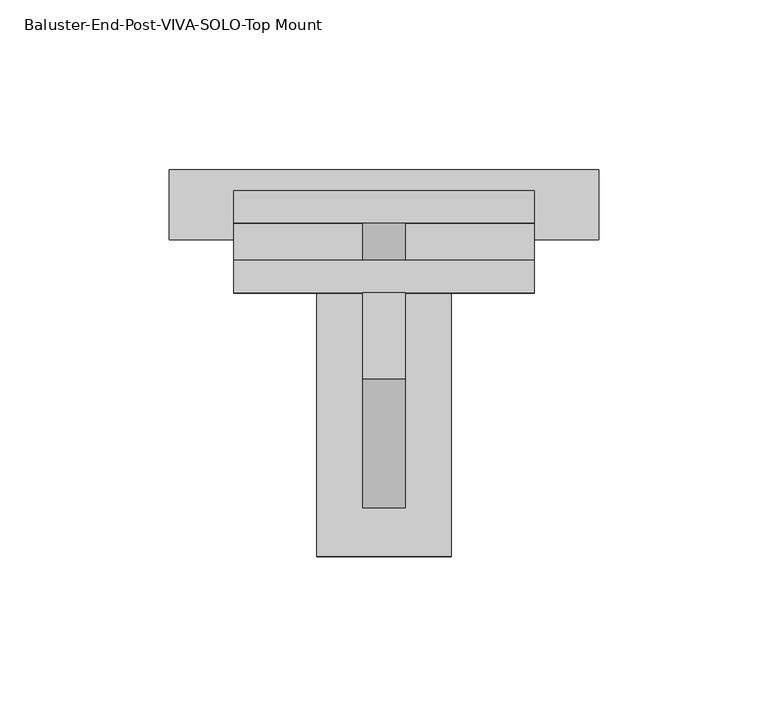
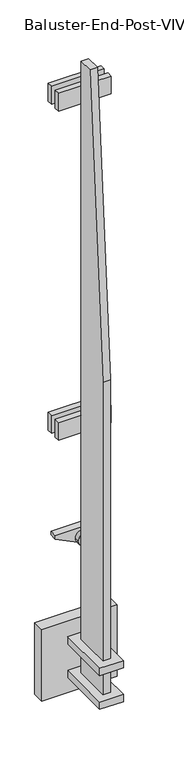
"""IFC4 building model written with IfcOpenShell, lengths in millimetres: proxy geometry, Baluster-End-Post-VIVA-SOLO-Top Mount : ANCHORED TO CONCRETE_FASCIA B1 MOUNT FOLD_STRAIGHT."""

from ifc_helpers import new_model, si_unit, point, frame, frame_2d, origin, place, context, project, spatial, polyline, circle_curve, trimmed, segment, composite_curve, outline, extrude, source, transform, mapped, element, save


def baluster_end_post_viva_solo_top_mount_2ca36c6b(model_context):
    return source(origin(), model_context, "Body", "SweptSolid", [
        extrude(outline(composite_curve([segment(trimmed(circle_curve(frame_2d((268.5208758, 0.0)), 6.35), [point((268.5208758, -6.35))], [point((268.5208758, 6.35))], False, "CARTESIAN"), True, "CONTINUOUS"), segment(trimmed(circle_curve(frame_2d((268.5208758, 0.0)), 6.35), [point((268.5208758, 6.35))], [point((268.5208758, -6.35))], False, "CARTESIAN"), True, "CONTINUOUS")], self_intersect=False)), frame((0.0, -63.209781, 0.0), z_axis=(0.0, 1.0, 0.0), x_axis=(0.0, 0.0, 1.0)), (0.0, 0.0, 1.0), 12.7),
        extrude(outline(composite_curve([segment(trimmed(circle_curve(frame_2d((854.7429765, 0.0)), 6.35), [point((854.7429765, -6.35))], [point((854.7429765, 6.35))], False, "CARTESIAN"), True, "CONTINUOUS"), segment(trimmed(circle_curve(frame_2d((854.7429765, 0.0)), 6.35), [point((854.7429765, 6.35))], [point((854.7429765, -6.35))], False, "CARTESIAN"), True, "CONTINUOUS")], self_intersect=False)), frame((0.0, -63.209781, 0.0), z_axis=(0.0, 1.0, 0.0), x_axis=(0.0, 0.0, 1.0)), (0.0, 0.0, 1.0), 12.7),
        extrude(outline(polyline([(-72.734781, 914.9493536), (-72.734781, -183.6006464), (-136.234781, -183.6006464), (-136.234781, 381.5493536), (-98.134781, 914.9493536), (-72.734781, 914.9493536)])), frame((-6.35, 0.0, 0.0), z_axis=(1.0, 0.0, 0.0), x_axis=(0.0, 1.0, 0.0)), (0.0, 0.0, 1.0), 12.7),
        extrude(outline(polyline([(44.45, -42.5925389), (44.45, -52.1175389), (-44.45, -52.1175389), (-44.45, -42.5925389), (44.45, -42.5925389)])), frame((0.0, 0.0, 838.7824344), z_axis=(0.0, 0.0, 1.0), x_axis=(1.0, 0.0, 0.0)), (0.0, 0.0, 1.0), 31.75),
        extrude(outline(polyline([(44.45, -42.5925389), (44.45, -52.1175389), (-44.45, -52.1175389), (-44.45, -42.5925389), (44.45, -42.5925389)])), frame((0.0, 0.0, 252.4484609), z_axis=(0.0, 0.0, 1.0), x_axis=(1.0, 0.0, 0.0)), (0.0, 0.0, 1.0), 31.75),
        extrude(outline(polyline([(44.45, -63.209781), (44.45, -72.734781), (-44.45, -72.734781), (-44.45, -63.209781), (44.45, -63.209781)])), frame((0.0, 0.0, 838.7824344), z_axis=(0.0, 0.0, 1.0), x_axis=(1.0, 0.0, 0.0)), (0.0, 0.0, 1.0), 31.75),
        extrude(outline(polyline([(44.45, -63.209781), (44.45, -72.734781), (-44.45, -72.734781), (-44.45, -63.209781), (44.45, -63.209781)])), frame((0.0, 0.0, 252.4484609), z_axis=(0.0, 0.0, 1.0), x_axis=(1.0, 0.0, 0.0)), (0.0, 0.0, 1.0), 31.75),
        extrude(outline(polyline([(70.3302675, -44.45), (48.4156188, 0.0), (70.3302675, 44.45), (76.6802675, 44.45), (76.6802675, -44.45), (70.3302675, -44.45)])), frame((0.0, -63.209781, 0.0), z_axis=(0.0, 1.0, 0.0), x_axis=(0.0, 0.0, 1.0)), (0.0, 0.0, 1.0), 12.7),
        extrude(outline(polyline([(-19.84375, -56.859781), (19.84375, -56.859781), (19.84375, -150.522281), (-19.84375, -150.522281), (-19.84375, -56.859781)])), frame((0.0, 0.0, -128.0381464), z_axis=(0.0, 0.0, 1.0), x_axis=(1.0, 0.0, 0.0)), (0.0, 0.0, 1.0), 12.7),
        extrude(outline(polyline([(-19.84375, -56.859781), (19.84375, -56.859781), (19.84375, -150.522281), (-19.84375, -150.522281), (-19.84375, -56.859781)])), frame((0.0, 0.0, -188.3631464), z_axis=(0.0, 0.0, 1.0), x_axis=(1.0, 0.0, 0.0)), (0.0, 0.0, 1.0), 12.7),
        extrude(outline(polyline([(63.5, -36.222281), (63.5, -56.859781), (-63.5, -56.859781), (-63.5, -36.222281), (63.5, -36.222281)])), frame((0.0, 0.0, -215.3506464), z_axis=(0.0, 0.0, 1.0), x_axis=(1.0, 0.0, 0.0)), (0.0, 0.0, 1.0), 127.0),
        extrude(outline(composite_curve([segment(trimmed(circle_curve(frame_2d((60.8777263, 0.0)), 11.1125), [point((60.8777263, -11.1125))], [point((60.8777263, 11.1125))], False, "CARTESIAN"), True, "CONTINUOUS"), segment(trimmed(circle_curve(frame_2d((60.8777263, 0.0)), 11.1125), [point((60.8777263, 11.1125))], [point((60.8777263, -11.1125))], False, "CARTESIAN"), True, "CONTINUOUS")], self_intersect=False)), frame((0.0, -72.734781, 0.0), z_axis=(0.0, 1.0, 0.0), x_axis=(0.0, 0.0, 1.0)), (0.0, 0.0, 1.0), 25.4),
    ])


if __name__ == "__main__":
    model = new_model("IFC4")
    model_context = context("Model", 3, world=origin())
    ifc_project = project(units=[si_unit("LENGTHUNIT", "METRE", prefix="MILLI")], contexts=[model_context])
    site = spatial("IfcSite", under=ifc_project)
    building = spatial("IfcBuilding", under=site)
    placement = place(None, origin())
    baluster_end_post_viva_solo_top_mount_shape = baluster_end_post_viva_solo_top_mount_2ca36c6b(model_context)
    element("IfcBuildingElementProxy", 1, Name="Baluster-End-Post-VIVA-SOLO-Top Mount : ANCHORED TO CONCRETE_FASCIA B1 MOUNT FOLD_STRAIGHT", ObjectType="Baluster-End-Post-VIVA-SOLO-Top Mount : ANCHORED TO CONCRETE_FASCIA B1 MOUNT FOLD_STRAIGHT", at=placement, inside=building, context=model_context, shape_type="MappedRepresentation", body=[
        mapped(baluster_end_post_viva_solo_top_mount_shape, transform((0.0, 0.0, 0.0), x_axis=(1.0, 0.0, 0.0), y_axis=(0.0, 1.0, 0.0), z_axis=(0.0, 0.0, 1.0))),
    ])
    save(model, "model.ifc")
